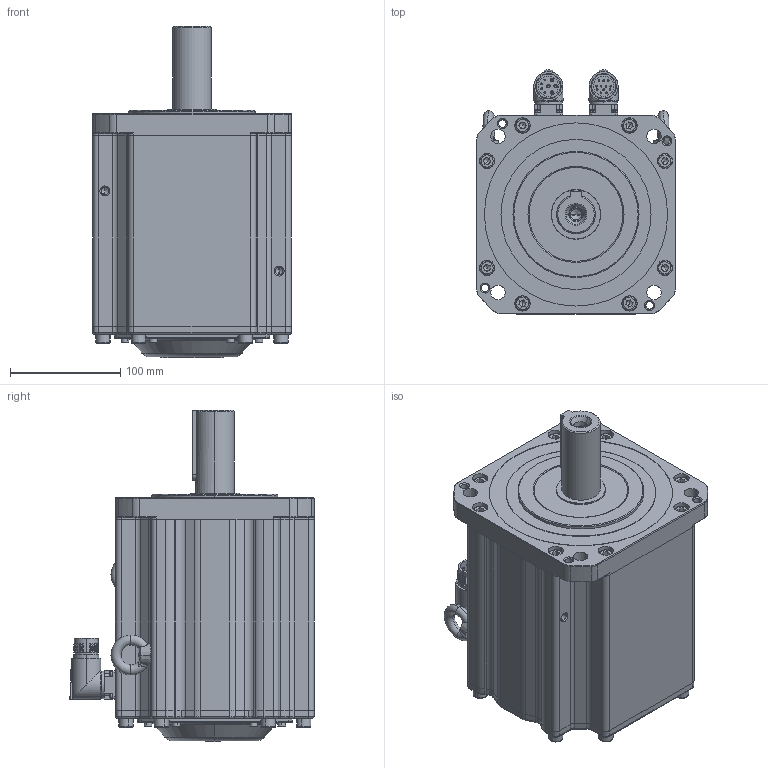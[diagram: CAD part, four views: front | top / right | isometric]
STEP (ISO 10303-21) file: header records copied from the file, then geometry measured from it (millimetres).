
FILE_DESCRIPTION (( 'STEP AP203' ), '1' );
FILE_NAME ('MC20-180-3M20-N402-1¡õPK-NNNN.STEP', '2025-05-05T03:30:11', ( '' ), ( '' ), 'SwSTEP 2.0', 'SolidWorks 2014', '' );
FILE_SCHEMA (( 'CONFIG_CONTROL_DESIGN' ));
Length unit declared in the file: millimetre
Products named in the file (1): MC20-180-3M20-N402-1¡õPK-NNNN
Bounding box: 180 x 221.35 x 299.95 mm (x, y, z)
Volume: 4116931 mm3; surface area: 544181.5 mm2
Topology: 40 solids, 42 shells, 2190 faces, 5098 edges, 3031 vertices
Faces by surface type: plane 883, cylinder 569, cone 483, torus 208, bspline 47
Entity records: 63884 total; most frequent: CARTESIAN_POINT 13740, DIRECTION 11030, ORIENTED_EDGE 9944, EDGE_CURVE 4972, AXIS2_PLACEMENT_3D 4270, VERTEX_POINT 3031, LINE 2490, VECTOR 2490
